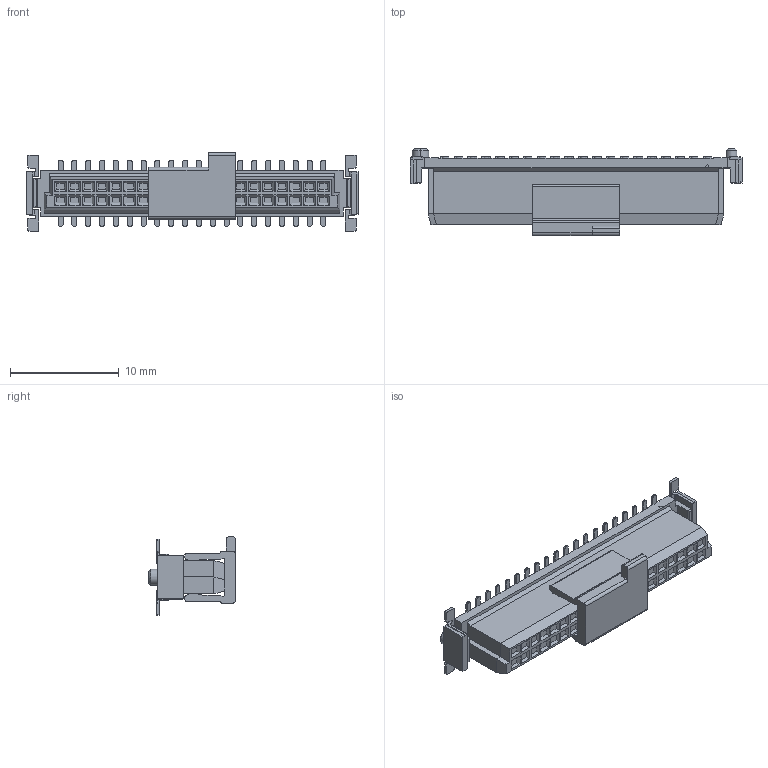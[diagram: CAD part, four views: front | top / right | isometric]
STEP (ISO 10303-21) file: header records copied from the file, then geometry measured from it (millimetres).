
FILE_DESCRIPTION (( 'STEP AP214' ), '1' );
FILE_NAME ('2321-A40FCxxDP1T-P.STEP', '2025-06-25T05:25:39', ( '' ), ( '' ), 'SwSTEP 2.0', 'SolidWorks 2011', '' );
FILE_SCHEMA (( 'AUTOMOTIVE_DESIGN' ));
Length unit declared in the file: millimetre
Products named in the file (3): 2321-FPAD2_Default_Default_Default_Default_Default; 2321-A40FCxxDP1T-P_Default; 2321-A40FCxxDP1T-P
Assembly tree (2 placements, depth 2):
  2321-A40FCxxDP1T-P
    2321-A40FCxxDP1T-P_Default
    2321-FPAD2_Default_Default_Default_Default_Default
Bounding box: 30.48 x 8 x 7.22 mm (x, y, z)
Volume: 599.6 mm3; surface area: 1040.7 mm2
Topology: 2 solids, 2 shells, 1332 faces, 3800 edges, 2475 vertices
Faces by surface type: plane 927, cylinder 400, cone 5
Entity records: 57639 total; most frequent: CARTESIAN_POINT 7612, ORIENTED_EDGE 7600, DIRECTION 7407, EDGE_CURVE 3800, LINE 2867, VECTOR 2867, VERTEX_POINT 2475, AXIS2_PLACEMENT_3D 2270
